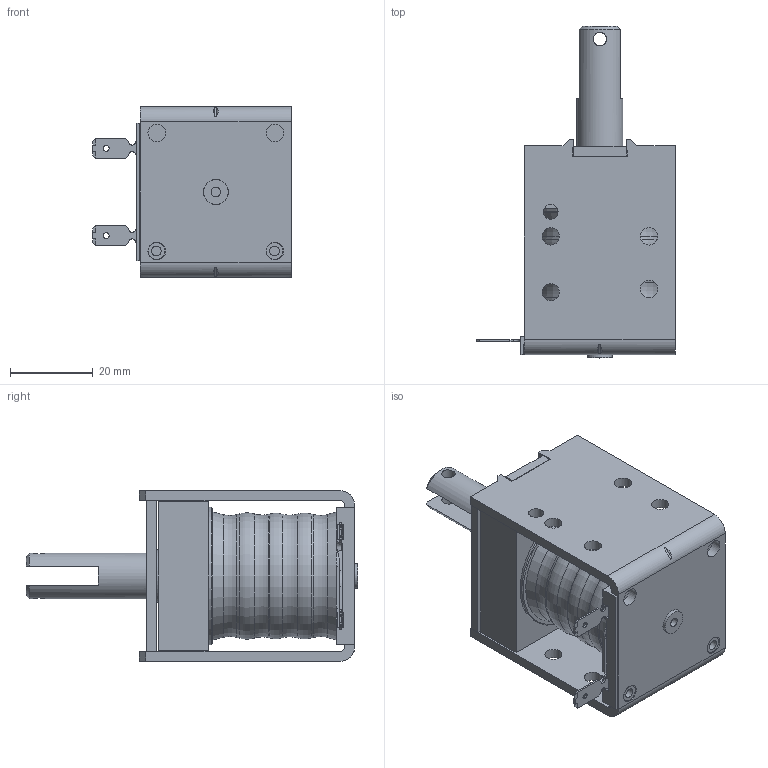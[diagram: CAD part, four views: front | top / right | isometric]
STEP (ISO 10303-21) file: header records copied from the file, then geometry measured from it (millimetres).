
FILE_DESCRIPTION((''),'2;1');
FILE_NAME('C:\Website 3D Models STP Files\MODEL 4L.stp','2014-07-16T16:21:53',('Dennis'),(''),'Autodesk Inventor 2013','Autodesk Inventor 2013','');
FILE_SCHEMA(('AUTOMOTIVE_DESIGN { 1 0 10303 214 1 1 1 1 }'));
Length unit declared in the file: inch
Products named in the file (3): MODEL 4L; A420-067897-00_Shrinkwrap_1; 104-030495-00
Assembly tree (2 placements, depth 2):
  MODEL 4L
    A420-067897-00_Shrinkwrap_1
    104-030495-00
Bounding box: 48.12 x 80.29 x 41.4 mm (x, y, z)
Volume: 55629.9 mm3; surface area: 36100.7 mm2
Topology: 10 solids, 10 shells, 456 faces, 1208 edges, 796 vertices
Faces by surface type: plane 310, cylinder 95, bspline 28, torus 12, cone 11
Full cylindrical faces by diameter (mm): 1.397 x2, 2.261 x1, 2.362 x2, 3.251 x2, 3.556 x1, 3.962 x2, 4.166 x8, 4.318 x4, 4.394 x2, 5.944 x1, 6.045 x1, 11.1 x1, 11.113 x1, 11.455 x1, 12.751 x1, 12.827 x1, 13.106 x2, 33.198 x1
Entity records: 14732 total; most frequent: CARTESIAN_POINT 3036, ORIENTED_EDGE 2298, DIRECTION 2153, EDGE_CURVE 1149, VECTOR 861, LINE 861, VERTEX_POINT 789, AXIS2_PLACEMENT_3D 646
